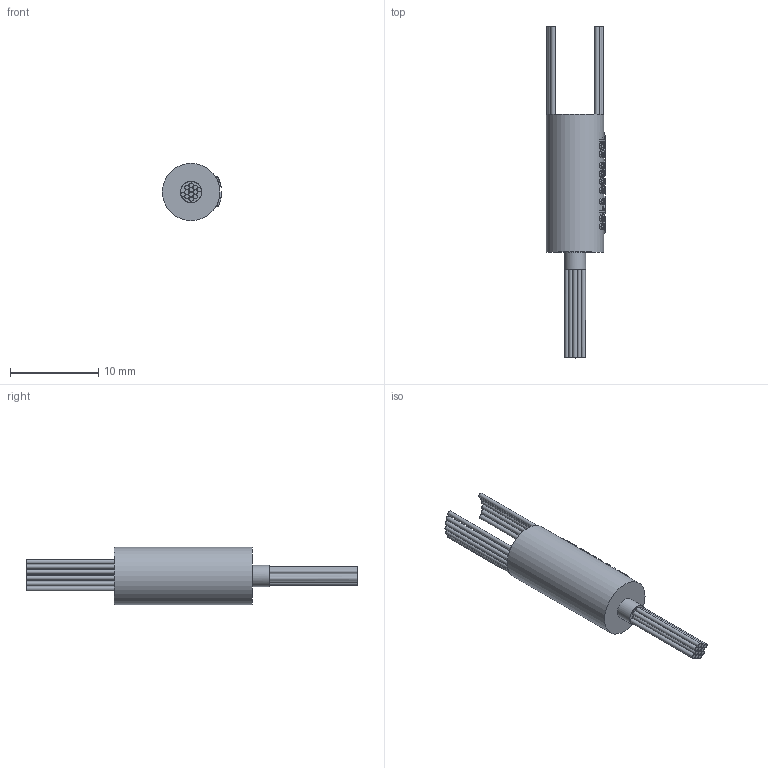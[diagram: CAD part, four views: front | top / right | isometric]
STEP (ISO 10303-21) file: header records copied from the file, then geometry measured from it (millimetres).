
FILE_DESCRIPTION(/* description */ (''),/* implementation_level */ '2;1');
FILE_NAME(/* name */ 'YM07-12.stp',/* time_stamp */ '2025-09-05T09:21:10+08:00',/* author */ (''),/* organization */ (''),/* preprocessor_version */ 'ST-DEVELOPER v16.7',/* originating_system */ 'SIEMENS PLM Software NX 12.0',/* authorisation */ '');
FILE_SCHEMA (('AUTOMOTIVE_DESIGN { 1 0 10303 214 3 1 1 1 }'));
Length unit declared in the file: millimetre
Products named in the file (1): Admi30D0F0663ad7
Bounding box: 6.7 x 37.6 x 6.5 mm (x, y, z)
Volume: 575.5 mm3; surface area: 807.4 mm2
Topology: 1 solids, 1 shells, 735 faces, 1996 edges, 1330 vertices
Faces by surface type: extrusion 450, plane 214, cylinder 42, bspline 29
Full cylindrical faces by diameter (mm): 0.5 x24, 2.4 x1, 6.5 x1
Entity records: 30713 total; most frequent: CARTESIAN_POINT 15478, ORIENTED_EDGE 3924, B_SPLINE_CURVE_WITH_KNOTS 2116, EDGE_CURVE 1962, DIRECTION 1444, VERTEX_POINT 1324, EDGE_LOOP 830, ADVANCED_FACE 735
